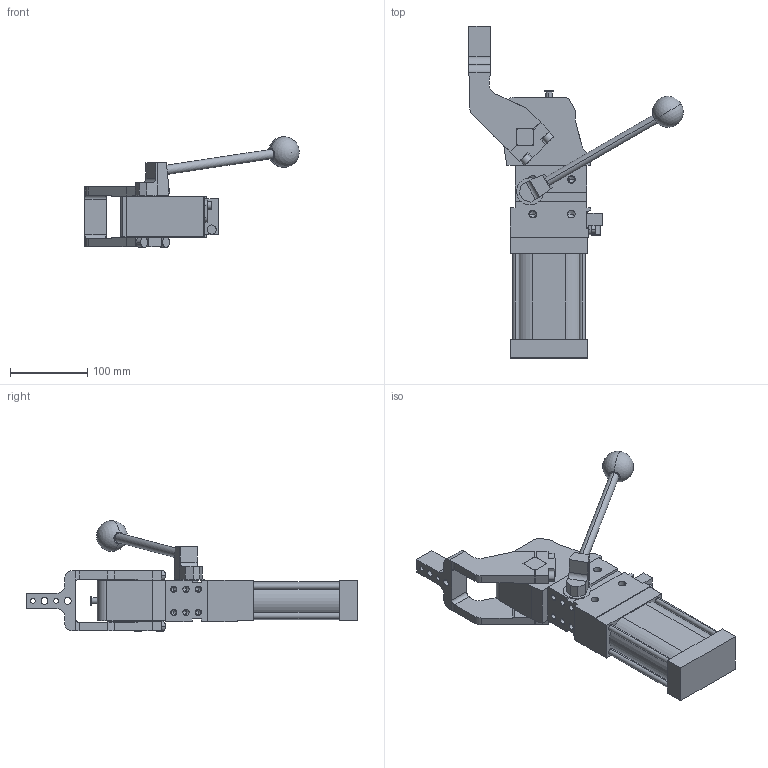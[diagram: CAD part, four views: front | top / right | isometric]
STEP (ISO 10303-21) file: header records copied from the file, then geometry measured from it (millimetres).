
FILE_DESCRIPTION (( 'STEP AP214' ), '1' );
FILE_NAME ('cplm63lah3ci1g_107.STEP', '2023-01-26T15:02:12', ( '' ), ( '' ), 'SwSTEP 2.0', 'SolidWorks 2022', '' );
FILE_SCHEMA (( 'AUTOMOTIVE_DESIGN' ));
Length unit declared in the file: millimetre
Products named in the file (5): cplm63lah3ci1g_107; meccanica_cplm_63; comando_manuale_cplm_63; blocchetto_VEP_0; leva_cx_offset_45_cpl63
Assembly tree (4 placements, depth 2):
  cplm63lah3ci1g_107
    meccanica_cplm_63
    blocchetto_VEP_0
    leva_cx_offset_45_cpl63
    comando_manuale_cplm_63
Bounding box: 278.06 x 430.5 x 143.5 mm (x, y, z)
Volume: 1879230.1 mm3; surface area: 210274.1 mm2
Topology: 4 solids, 4 shells, 432 faces, 1134 edges, 703 vertices
Faces by surface type: plane 219, cylinder 161, cone 50, sphere 2
Entity records: 14579 total; most frequent: DIRECTION 2315, CARTESIAN_POINT 2298, ORIENTED_EDGE 2166, EDGE_CURVE 1083, AXIS2_PLACEMENT_3D 799, LINE 717, VECTOR 717, VERTEX_POINT 700
